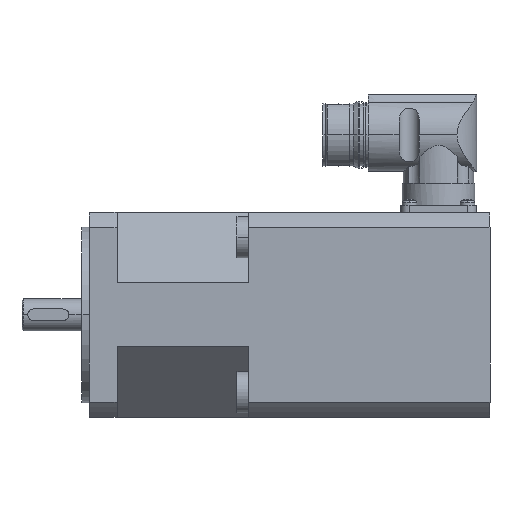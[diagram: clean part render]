
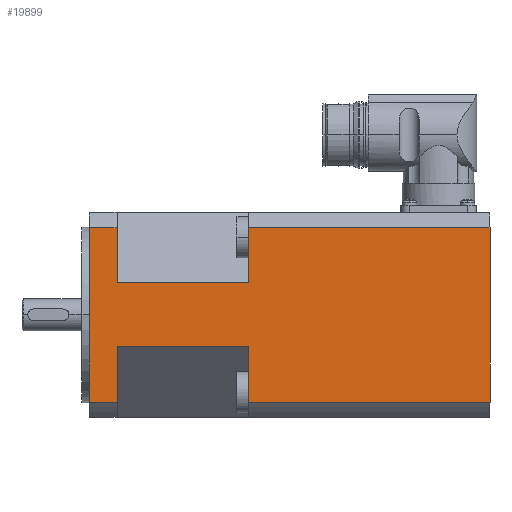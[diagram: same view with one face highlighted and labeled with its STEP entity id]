
A CAD part, front view. The second image highlights one B-rep face of the part: STEP entity #19899.
In plain terms, the highlighted planar face has unit normal (0, -1, 0).
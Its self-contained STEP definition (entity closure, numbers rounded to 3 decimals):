
#19079=CARTESIAN_POINT('',(794.764,477.104,-29.85));
#19080=VERTEX_POINT('',#19079);
#19088=CARTESIAN_POINT('',(794.764,477.104,-10.962));
#19089=VERTEX_POINT('',#19088);
#19090=CARTESIAN_POINT('',(794.764,477.104,-10.962));
#19091=DIRECTION('',(0.,0.,-1.0));
#19092=VECTOR('',#19091,18.888);
#19093=LINE('',#19090,#19092);
#19094=EDGE_CURVE('',#19089,#19080,#19093,.T.);
#19179=CARTESIAN_POINT('',(749.764,477.104,10.962));
#19180=VERTEX_POINT('',#19179);
#19187=CARTESIAN_POINT('',(794.764,477.104,10.962));
#19188=VERTEX_POINT('',#19187);
#19189=CARTESIAN_POINT('',(794.764,477.104,10.962));
#19190=DIRECTION('',(-1.0,0.,0.));
#19191=VECTOR('',#19190,45.);
#19192=LINE('',#19189,#19191);
#19193=EDGE_CURVE('',#19188,#19180,#19192,.T.);
#19753=CARTESIAN_POINT('',(749.764,477.104,-29.85));
#19754=VERTEX_POINT('',#19753);
#19755=CARTESIAN_POINT('',(740.264,477.104,-29.85));
#19756=VERTEX_POINT('',#19755);
#19757=CARTESIAN_POINT('',(749.764,477.104,-29.85));
#19758=DIRECTION('',(-1.0,0.,0.0));
#19759=VECTOR('',#19758,9.5);
#19760=LINE('',#19757,#19759);
#19761=EDGE_CURVE('',#19754,#19756,#19760,.T.);
#19795=CARTESIAN_POINT('',(740.264,477.104,29.85));
#19796=VERTEX_POINT('',#19795);
#19797=CARTESIAN_POINT('',(749.764,477.104,29.85));
#19798=VERTEX_POINT('',#19797);
#19799=CARTESIAN_POINT('',(740.264,477.104,29.85));
#19800=DIRECTION('',(1.0,0.,0.0));
#19801=VECTOR('',#19800,9.5);
#19802=LINE('',#19799,#19801);
#19803=EDGE_CURVE('',#19796,#19798,#19802,.T.);
#19832=CARTESIAN_POINT('',(740.264,477.104,-44.));
#19833=DIRECTION('',(0.,-1.0,0.));
#19834=DIRECTION('',(0.0,0.0,-1.0));
#19835=AXIS2_PLACEMENT_3D('',#19832,#19833,#19834);
#19836=PLANE('',#19835);
#19837=ORIENTED_EDGE('',*,*,#19803,.F.);
#19838=CARTESIAN_POINT('',(740.264,477.104,29.85));
#19839=DIRECTION('',(0.0,0.0,-1.0));
#19840=VECTOR('',#19839,59.699);
#19841=LINE('',#19838,#19840);
#19842=EDGE_CURVE('',#19796,#19756,#19841,.T.);
#19843=ORIENTED_EDGE('',*,*,#19842,.T.);
#19844=ORIENTED_EDGE('',*,*,#19761,.F.);
#19845=CARTESIAN_POINT('',(749.764,477.104,-10.962));
#19846=VERTEX_POINT('',#19845);
#19847=CARTESIAN_POINT('',(749.764,477.104,-29.85));
#19848=DIRECTION('',(0.0,0.0,1.0));
#19849=VECTOR('',#19848,18.888);
#19850=LINE('',#19847,#19849);
#19851=EDGE_CURVE('',#19754,#19846,#19850,.T.);
#19852=ORIENTED_EDGE('',*,*,#19851,.T.);
#19853=CARTESIAN_POINT('',(749.764,477.104,-10.962));
#19854=DIRECTION('',(1.0,0.,0.));
#19855=VECTOR('',#19854,45.);
#19856=LINE('',#19853,#19855);
#19857=EDGE_CURVE('',#19846,#19089,#19856,.T.);
#19858=ORIENTED_EDGE('',*,*,#19857,.T.);
#19859=ORIENTED_EDGE('',*,*,#19094,.T.);
#19860=CARTESIAN_POINT('',(877.264,477.104,-29.85));
#19861=VERTEX_POINT('',#19860);
#19862=CARTESIAN_POINT('',(794.764,477.104,-29.85));
#19863=DIRECTION('',(1.0,0.,0.));
#19864=VECTOR('',#19863,82.5);
#19865=LINE('',#19862,#19864);
#19866=EDGE_CURVE('',#19080,#19861,#19865,.T.);
#19867=ORIENTED_EDGE('',*,*,#19866,.T.);
#19868=CARTESIAN_POINT('',(877.264,477.104,29.85));
#19869=VERTEX_POINT('',#19868);
#19870=CARTESIAN_POINT('',(877.264,477.104,-29.85));
#19871=DIRECTION('',(0.0,0.0,1.0));
#19872=VECTOR('',#19871,59.699);
#19873=LINE('',#19870,#19872);
#19874=EDGE_CURVE('',#19861,#19869,#19873,.T.);
#19875=ORIENTED_EDGE('',*,*,#19874,.T.);
#19876=CARTESIAN_POINT('',(794.764,477.104,29.85));
#19877=VERTEX_POINT('',#19876);
#19878=CARTESIAN_POINT('',(877.264,477.104,29.85));
#19879=DIRECTION('',(-1.0,0.,0.));
#19880=VECTOR('',#19879,82.5);
#19881=LINE('',#19878,#19880);
#19882=EDGE_CURVE('',#19869,#19877,#19881,.T.);
#19883=ORIENTED_EDGE('',*,*,#19882,.T.);
#19884=CARTESIAN_POINT('',(794.764,477.104,29.85));
#19885=DIRECTION('',(0.0,0.,-1.0));
#19886=VECTOR('',#19885,18.888);
#19887=LINE('',#19884,#19886);
#19888=EDGE_CURVE('',#19877,#19188,#19887,.T.);
#19889=ORIENTED_EDGE('',*,*,#19888,.T.);
#19890=ORIENTED_EDGE('',*,*,#19193,.T.);
#19891=CARTESIAN_POINT('',(749.764,477.104,10.962));
#19892=DIRECTION('',(0.0,0.0,1.0));
#19893=VECTOR('',#19892,18.888);
#19894=LINE('',#19891,#19893);
#19895=EDGE_CURVE('',#19180,#19798,#19894,.T.);
#19896=ORIENTED_EDGE('',*,*,#19895,.T.);
#19897=EDGE_LOOP('',(#19837,#19843,#19844,#19852,#19858,#19859,#19867,#19875,#19883,#19889,#19890,#19896));
#19898=FACE_OUTER_BOUND('',#19897,.T.);
#19899=ADVANCED_FACE('',(#19898),#19836,.T.);
